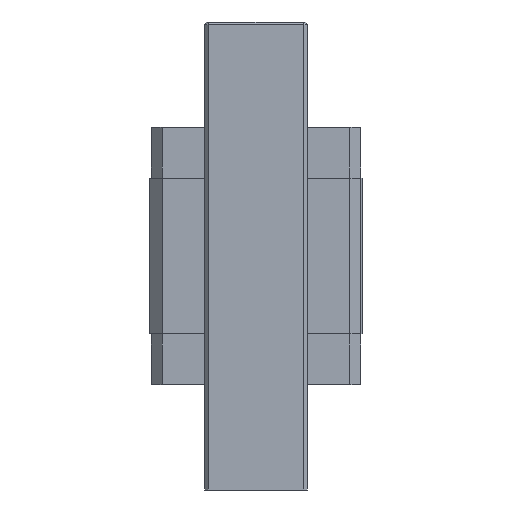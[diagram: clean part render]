
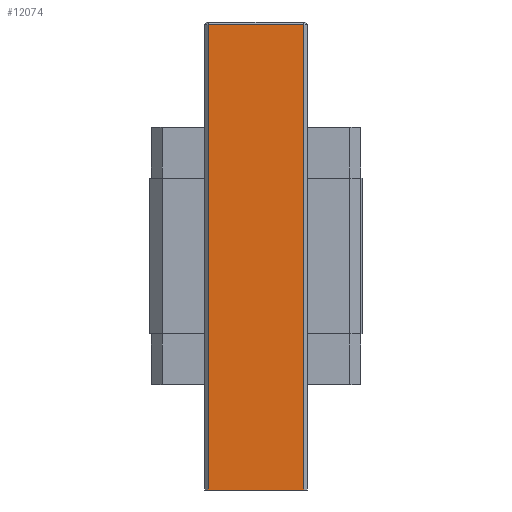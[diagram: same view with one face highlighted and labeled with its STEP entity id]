
A CAD part, front view. The second image highlights one B-rep face of the part: STEP entity #12074.
In plain terms, the highlighted planar face has unit normal (0, -1, 0).
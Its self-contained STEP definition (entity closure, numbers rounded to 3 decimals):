
#11035=DIRECTION('',(1.,0.,0.));
#11036=VECTOR('',#11035,31.6);
#11037=CARTESIAN_POINT('',(-15.8,-18.5,-77.25));
#11038=LINE('',#11037,#11036);
#11308=DIRECTION('',(1.,0.,0.));
#11309=VECTOR('',#11308,31.6);
#11310=CARTESIAN_POINT('',(-15.8,-18.5,76.384));
#11311=LINE('',#11310,#11309);
#11312=DIRECTION('',(0.,0.,1.));
#11313=VECTOR('',#11312,153.634);
#11314=CARTESIAN_POINT('',(-15.8,-18.5,-77.25));
#11315=LINE('',#11314,#11313);
#11320=DIRECTION('',(0.,0.,1.));
#11321=VECTOR('',#11320,153.634);
#11322=CARTESIAN_POINT('',(15.8,-18.5,-77.25));
#11323=LINE('',#11322,#11321);
#11506=CARTESIAN_POINT('',(-15.8,-18.5,-77.25));
#11507=VERTEX_POINT('',#11506);
#11508=CARTESIAN_POINT('',(15.8,-18.5,-77.25));
#11509=VERTEX_POINT('',#11508);
#11570=CARTESIAN_POINT('',(15.8,-18.5,76.384));
#11571=VERTEX_POINT('',#11570);
#11574=CARTESIAN_POINT('',(-15.8,-18.5,76.384));
#11575=VERTEX_POINT('',#11574);
#12062=CARTESIAN_POINT('',(-15.8,-18.5,-77.25));
#12063=DIRECTION('',(0.,-1.,0.));
#12064=DIRECTION('',(1.,0.,0.));
#12065=AXIS2_PLACEMENT_3D('',#12062,#12063,#12064);
#12066=PLANE('',#12065);
#12067=ORIENTED_EDGE('',*,*,#12053,.T.);
#12069=ORIENTED_EDGE('',*,*,#12068,.F.);
#12070=ORIENTED_EDGE('',*,*,#11655,.F.);
#12071=ORIENTED_EDGE('',*,*,#12028,.T.);
#12072=EDGE_LOOP('',(#12067,#12069,#12070,#12071));
#12073=FACE_OUTER_BOUND('',#12072,.F.);
#11655=EDGE_CURVE('',#11507,#11509,#11038,.T.);
#12028=EDGE_CURVE('',#11507,#11575,#11315,.T.);
#12053=EDGE_CURVE('',#11575,#11571,#11311,.T.);
#12068=EDGE_CURVE('',#11509,#11571,#11323,.T.);
#12074=ADVANCED_FACE('',(#12073),#12066,.T.);
